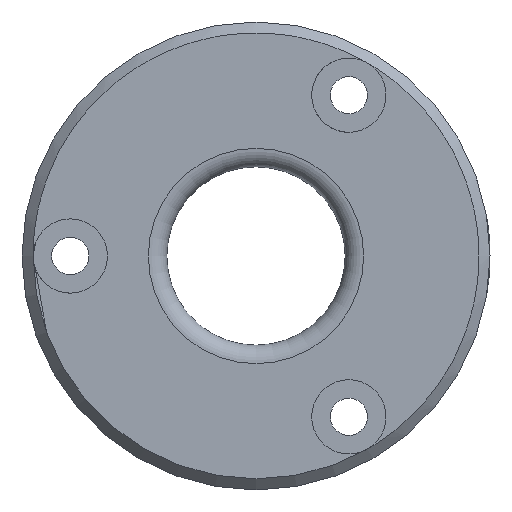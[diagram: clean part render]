
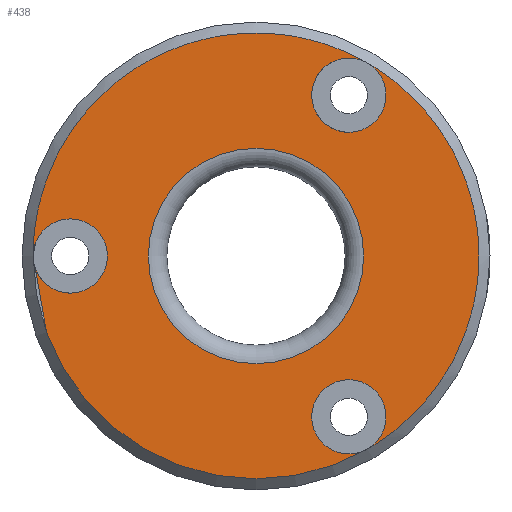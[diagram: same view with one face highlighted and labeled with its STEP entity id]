
A CAD part, left-side view. The second image highlights one B-rep face of the part: STEP entity #438.
In plain terms, the highlighted planar face has unit normal (-1, 0, 0).
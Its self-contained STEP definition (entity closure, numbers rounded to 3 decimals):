
#17=FACE_BOUND('',#114,.T.);
#26=PLANE('',#491);
#39=CIRCLE('',#484,14.5);
#45=CIRCLE('',#492,5.);
#46=CIRCLE('',#493,5.);
#47=CIRCLE('',#494,30.);
#48=CIRCLE('',#495,5.);
#49=CIRCLE('',#496,5.);
#50=CIRCLE('',#497,30.);
#51=CIRCLE('',#498,5.);
#52=CIRCLE('',#499,5.);
#53=CIRCLE('',#500,30.);
#89=FACE_OUTER_BOUND('',#113,.T.);
#113=EDGE_LOOP('',(#322,#323,#324,#325,#326,#327,#328,#329,#330));
#114=EDGE_LOOP('',(#331));
#193=VERTEX_POINT('',#892);
#198=VERTEX_POINT('',#907);
#199=VERTEX_POINT('',#908);
#200=VERTEX_POINT('',#911);
#201=VERTEX_POINT('',#913);
#202=VERTEX_POINT('',#916);
#203=VERTEX_POINT('',#918);
#236=EDGE_CURVE('',#193,#193,#39,.T.);
#244=EDGE_CURVE('',#198,#199,#45,.T.);
#245=EDGE_CURVE('',#199,#198,#46,.T.);
#246=EDGE_CURVE('',#200,#198,#47,.T.);
#247=EDGE_CURVE('',#200,#201,#48,.T.);
#248=EDGE_CURVE('',#201,#200,#49,.T.);
#249=EDGE_CURVE('',#202,#200,#50,.T.);
#250=EDGE_CURVE('',#202,#203,#51,.T.);
#251=EDGE_CURVE('',#203,#202,#52,.T.);
#252=EDGE_CURVE('',#198,#202,#53,.T.);
#322=ORIENTED_EDGE('',*,*,#244,.T.);
#323=ORIENTED_EDGE('',*,*,#245,.T.);
#324=ORIENTED_EDGE('',*,*,#246,.F.);
#325=ORIENTED_EDGE('',*,*,#247,.T.);
#326=ORIENTED_EDGE('',*,*,#248,.T.);
#327=ORIENTED_EDGE('',*,*,#249,.F.);
#328=ORIENTED_EDGE('',*,*,#250,.T.);
#329=ORIENTED_EDGE('',*,*,#251,.T.);
#330=ORIENTED_EDGE('',*,*,#252,.F.);
#331=ORIENTED_EDGE('',*,*,#236,.F.);
#438=ADVANCED_FACE('',(#89,#17),#26,.T.);
#484=AXIS2_PLACEMENT_3D('',#893,#558,#559);
#491=AXIS2_PLACEMENT_3D('',#906,#574,#575);
#492=AXIS2_PLACEMENT_3D('',#909,#576,#577);
#493=AXIS2_PLACEMENT_3D('',#910,#578,#579);
#494=AXIS2_PLACEMENT_3D('',#912,#580,#581);
#495=AXIS2_PLACEMENT_3D('',#914,#582,#583);
#496=AXIS2_PLACEMENT_3D('',#915,#584,#585);
#497=AXIS2_PLACEMENT_3D('',#917,#586,#587);
#498=AXIS2_PLACEMENT_3D('',#919,#588,#589);
#499=AXIS2_PLACEMENT_3D('',#920,#590,#591);
#500=AXIS2_PLACEMENT_3D('',#921,#592,#593);
#558=DIRECTION('center_axis',(-1.,0.,0.));
#559=DIRECTION('ref_axis',(0.,-1.,0.));
#574=DIRECTION('center_axis',(-1.,0.,0.));
#575=DIRECTION('ref_axis',(0.,0.,1.));
#576=DIRECTION('center_axis',(1.,0.,0.));
#577=DIRECTION('ref_axis',(0.,0.,1.));
#578=DIRECTION('center_axis',(1.,0.,0.));
#579=DIRECTION('ref_axis',(0.,0.,1.));
#580=DIRECTION('center_axis',(1.,0.,0.));
#581=DIRECTION('ref_axis',(0.,-1.,0.));
#582=DIRECTION('center_axis',(1.,0.,0.));
#583=DIRECTION('ref_axis',(0.,0.,1.));
#584=DIRECTION('center_axis',(1.,0.,0.));
#585=DIRECTION('ref_axis',(0.,0.,1.));
#586=DIRECTION('center_axis',(1.,0.,0.));
#587=DIRECTION('ref_axis',(0.,-1.,0.));
#588=DIRECTION('center_axis',(1.,0.,0.));
#589=DIRECTION('ref_axis',(0.,0.,1.));
#590=DIRECTION('center_axis',(1.,0.,0.));
#591=DIRECTION('ref_axis',(0.,0.,1.));
#592=DIRECTION('center_axis',(1.,0.,0.));
#593=DIRECTION('ref_axis',(0.,-1.,0.));
#892=CARTESIAN_POINT('',(0.,0.,14.5));
#893=CARTESIAN_POINT('Origin',(0.,0.,0.));
#906=CARTESIAN_POINT('Origin',(0.,31.5,0.));
#907=CARTESIAN_POINT('',(0.,-15.,25.981));
#908=CARTESIAN_POINT('',(0.,-12.5,16.651));
#909=CARTESIAN_POINT('Origin',(0.,-12.5,21.651));
#910=CARTESIAN_POINT('Origin',(0.,-12.5,21.651));
#911=CARTESIAN_POINT('',(0.,30.,0.));
#912=CARTESIAN_POINT('Origin',(0.,0.,0.));
#913=CARTESIAN_POINT('',(0.,25.,-5.));
#914=CARTESIAN_POINT('Origin',(0.,25.,0.));
#915=CARTESIAN_POINT('Origin',(0.,25.,0.));
#916=CARTESIAN_POINT('',(0.,-15.,-25.981));
#917=CARTESIAN_POINT('Origin',(0.,0.,0.));
#918=CARTESIAN_POINT('',(0.,-12.5,-26.651));
#919=CARTESIAN_POINT('Origin',(0.,-12.5,-21.651));
#920=CARTESIAN_POINT('Origin',(0.,-12.5,-21.651));
#921=CARTESIAN_POINT('Origin',(0.,0.,0.));
